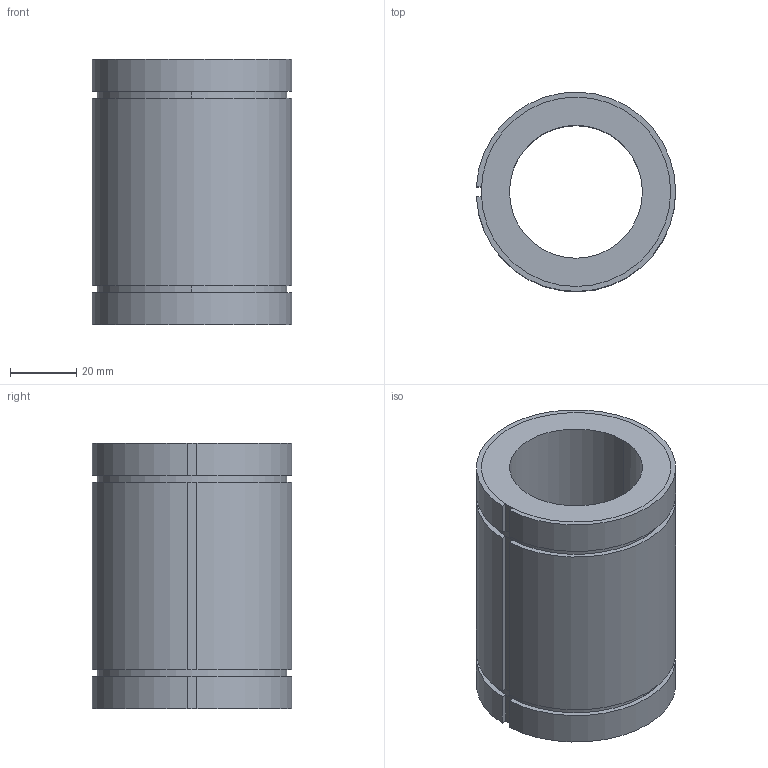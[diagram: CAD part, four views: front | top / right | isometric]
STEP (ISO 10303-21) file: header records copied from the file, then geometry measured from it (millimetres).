
FILE_DESCRIPTION((''),'2;1');
FILE_NAME('C:\Documents and Settings\ｿﾀﾀ蠑ｷ1\ｹﾙﾅﾁ ﾈｭｸ饅\ｺﾎﾇｰﾆﾄﾀﾏ\ﾁｦﾇｰ\LM__UUAJ\LM40UUAJ.stp','2005-06-14T16:27:18',('ｿﾀﾀ蠑ｷ1'),(''),'Autodesk Inventor 9','Autodesk Inventor 9','');
FILE_SCHEMA(('AUTOMOTIVE_DESIGN { 1 0 10303 214 1 1 1 1 }'));
Length unit declared in the file: millimetre
Products named in the file (1): LM__AJ
Bounding box: 59.96 x 59.98 x 80 mm (x, y, z)
Volume: 124167.6 mm3; surface area: 29532.3 mm2
Topology: 1 solids, 1 shells, 29 faces, 76 edges, 49 vertices
Faces by surface type: plane 17, cylinder 12
Entity records: 928 total; most frequent: DIRECTION 167, CARTESIAN_POINT 155, ORIENTED_EDGE 152, EDGE_CURVE 76, AXIS2_PLACEMENT_3D 61, VERTEX_POINT 49, VECTOR 45, LINE 45
